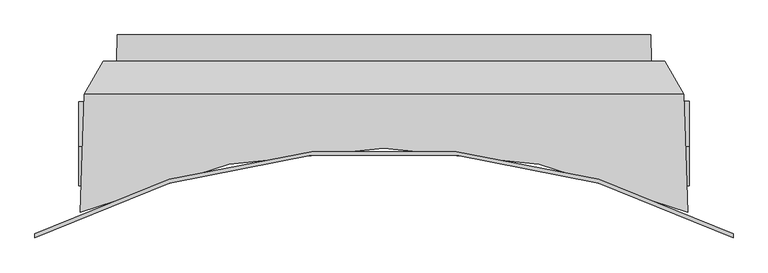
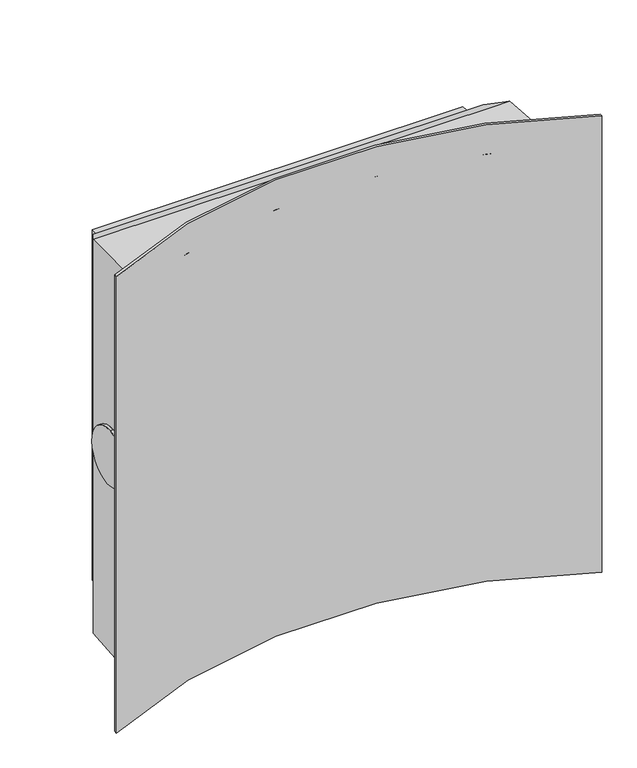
"""IFC4 building model written with IfcOpenShell, lengths in millimetres: proxy geometry, SU.900x900ManwayRiserAdapter.2500."""

from ifc_helpers import new_model, si_unit, frame, origin, place, context, project, spatial, polyline, circle_curve, ellipse_curve, source, transform, mapped, element, save
from ifc_brep_helpers import plane_surface, cylinder_surface, revolved_surface, advanced_brep


def generic_models_d0b4e73c(model_context):
    return source(origin(), model_context, "Body", "AdvancedBrep", [
        advanced_brep(
        [(498.8644366, -174.4226099, -69.7774514), (506.0, -174.4226099, -69.7774514), (506.0, -185.5773901, 69.7774514), (499.2539702, -185.5773901, 69.7774514), (-506.0, -174.4226099, -69.7774514), (-498.8644366, -174.4226099, -69.7774514), (-499.2539702, -185.5773901, 69.7774514), (-506.0, -185.5773901, 69.7774514), (-496.206021, -98.2955463, -496.206021), (-503.0171232, -293.3399951, -503.0171232), (-503.0171232, -293.3399951, 503.0171232), (-496.206021, -98.2955463, 496.206021), (-496.6147495, -110.0, 0.0), (503.0171232, -293.3399951, -503.0171232), (496.206021, -98.2955463, -496.206021), (496.206021, -98.2955463, 496.206021), (503.0171232, -293.3399951, 503.0171232), (496.6147495, -110.0, 0.0), (578.2496957, -329.4533574, -575.0), (-578.2496957, -329.4533574, -575.0), (-578.2496957, -329.4533574, 575.0), (578.2496957, -329.4533574, 575.0), (-464.8584727, -44.0, -464.8584727), (464.8584727, -44.0, -464.8584727), (464.8584727, -44.0, 464.8584727), (-464.8584727, -44.0, 464.8584727), (443.0401711, -44.0, -443.0401711), (443.0401711, -44.0, 443.0401711), (-443.0401711, -44.0, 443.0401711), (-443.0401711, -44.0, -443.0401711), (441.5036573, 0.0, 441.5036573), (441.5036573, 0.0, -441.5036573), (-441.5036573, 0.0, -441.5036573), (-441.5036573, 0.0, 441.5036573), (578.2496957, -336.2254829, -575.0), (578.2496957, -336.2254829, 575.0), (-578.2496957, -336.2254829, 575.0), (-578.2496957, -336.2254829, -575.0)],
        [
            (0, 1),
            (1, 2, circle_curve(frame((506.0, -180.0, 0.0), z_axis=(-1.0, 0.0, 0.0), x_axis=(0.0, 0.07967700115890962, -0.99682073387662)), 70.0)),
            (2, 3),
            (3, 0, ellipse_curve(frame((499.0592034, -180.0, 0.0), z_axis=(0.9993908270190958, 0.03489949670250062, 0.0), x_axis=(0.03489949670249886, -0.9993908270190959, 0.0)), 70.0426681, 70.0)),
            (4, 5),
            (5, 6, ellipse_curve(frame((-499.0592034, -180.0, 0.0), z_axis=(-0.9993908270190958, 0.03489949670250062, 0.0), x_axis=(0.03489949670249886, 0.9993908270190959, 0.0)), 70.0426681, 70.0)),
            (6, 7),
            (7, 4, circle_curve(frame((-506.0, -180.0, 0.0), z_axis=(1.0, 0.0, 0.0), x_axis=(0.0, 0.07967700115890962, -0.99682073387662)), 70.0)),
            (8, 9),
            (9, 10),
            (10, 11),
            (11, 8),
            (5, 12, ellipse_curve(frame((-499.0592034, -180.0, 0.0), z_axis=(0.9993908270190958, -0.03489949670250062, 0.0), x_axis=(0.03489949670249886, 0.9993908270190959, 0.0)), 70.0426681, 70.0)),
            (12, 6, ellipse_curve(frame((-499.0592034, -180.0, 0.0), z_axis=(0.9993908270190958, -0.03489949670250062, 0.0), x_axis=(0.03489949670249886, 0.9993908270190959, 0.0)), 70.0426681, 70.0)),
            (4, 7, circle_curve(frame((-506.0, -180.0, 0.0), z_axis=(1.0, 0.0, 0.0), x_axis=(0.0, 0.07967700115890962, -0.99682073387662)), 70.0)),
            (13, 14),
            (14, 15),
            (15, 16),
            (16, 13),
            (17, 0, ellipse_curve(frame((499.0592034, -180.0, 0.0), z_axis=(-0.9993908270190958, -0.03489949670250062, 0.0), x_axis=(0.03489949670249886, -0.9993908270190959, 0.0)), 70.0426681, 70.0)),
            (3, 17, ellipse_curve(frame((499.0592034, -180.0, 0.0), z_axis=(-0.9993908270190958, -0.03489949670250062, 0.0), x_axis=(0.03489949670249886, -0.9993908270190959, 0.0)), 70.0426681, 70.0)),
            (2, 1, circle_curve(frame((506.0, -180.0, 0.0), z_axis=(-1.0, 0.0, 0.0), x_axis=(0.0, 0.07967700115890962, -0.99682073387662)), 70.0)),
            (13, 9, ellipse_curve(frame((0.0, -1437.6624032, -542.9777423), z_axis=(0.0, -0.03489949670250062, 0.9993908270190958), x_axis=(0.0, 0.9993908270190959, 0.03489949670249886)), 1250.7619304, 1250.0)),
            (8, 14),
            (15, 11),
            (10, 16, ellipse_curve(frame((0.0, -1437.6624032, 542.9777423), z_axis=(0.0, -0.03489949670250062, -0.9993908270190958), x_axis=(0.0, -0.9993908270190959, 0.03489949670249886)), 1250.7619304, 1250.0)),
            (18, 19, circle_curve(frame((0.0, -1437.6624032, -575.0), z_axis=(0.0, 0.0, 1.0), x_axis=(0.4625997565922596, 0.8865672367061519, 0.0)), 1250.0)),
            (19, 20),
            (20, 21, circle_curve(frame((0.0, -1437.6624032, 575.0), z_axis=(0.0, 0.0, -1.0), x_axis=(0.4625997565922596, 0.8865672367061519, 0.0)), 1250.0)),
            (21, 18),
            (8, 22),
            (22, 23),
            (23, 14),
            (23, 24),
            (24, 15),
            (22, 25),
            (25, 24),
            (26, 27),
            (27, 28),
            (28, 29),
            (29, 26),
            (25, 11),
            (30, 31),
            (31, 32),
            (32, 33),
            (33, 30),
            (30, 27),
            (26, 31),
            (29, 32),
            (33, 28),
            (34, 35),
            (35, 36, circle_curve(frame((0.0, -1437.6624032, 575.0), z_axis=(0.0, 0.0, 1.0), x_axis=(-0.4648309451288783, -0.8853994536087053, 0.0)), 1244.0)),
            (36, 37),
            (37, 34, circle_curve(frame((0.0, -1437.6624032, -575.0), z_axis=(0.0, 0.0, -1.0), x_axis=(-0.4648309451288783, -0.8853994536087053, 0.0)), 1244.0)),
            (34, 18),
            (21, 35),
            (19, 37),
            (36, 20),
        ],
        [
            cylinder_surface(frame((0.0, -180.0, 0.0), z_axis=(1.0, 0.0, 0.0), x_axis=(0.0, 0.07967700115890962, -0.99682073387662)), 70.0),
            plane_surface(frame((-496.206021, -98.2955463, -391.5), z_axis=(-0.9993908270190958, 0.03489949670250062, 0.0), x_axis=(-0.03489949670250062, -0.9993908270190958, 0.0))),
            plane_surface(frame((496.206021, -98.2955463, 391.5), z_axis=(0.9993908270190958, 0.03489949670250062, 0.0), x_axis=(0.03489949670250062, -0.9993908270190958, 0.0))),
            plane_surface(frame((506.0, -205.0, 0.0), z_axis=(1.0, 0.0, 0.0), x_axis=(0.0, 0.0, -1.0))),
            plane_surface(frame((-506.0, -205.0, 0.0), z_axis=(-1.0, 0.0, 0.0), x_axis=(0.0, 0.0, -1.0))),
            plane_surface(frame((391.5, -98.2955463, -496.206021), z_axis=(0.0, 0.03489949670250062, -0.9993908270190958), x_axis=(0.0, -0.9993908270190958, -0.03489949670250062))),
            plane_surface(frame((-391.5, -98.2955463, 496.206021), z_axis=(0.0, 0.03489949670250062, 0.9993908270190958), x_axis=(0.0, -0.9993908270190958, 0.03489949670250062))),
            cylinder_surface(frame((0.0, -1437.6624032, 0.0), z_axis=(0.0, 0.0, 0.9999999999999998), x_axis=(0.4625997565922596, 0.8865672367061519, 0.0)), 1250.0),
            plane_surface(frame((391.5, -44.0, -464.8584727), z_axis=(0.0, 0.49999999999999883, -0.8660254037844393), x_axis=(0.0, -0.8660254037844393, -0.49999999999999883))),
            plane_surface(frame((464.8584727, -44.0, 391.5), z_axis=(0.8660254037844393, 0.49999999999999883, 0.0), x_axis=(0.49999999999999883, -0.8660254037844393, 0.0))),
            plane_surface(frame((391.5, -44.0, -443.0401711), z_axis=(0.0, 1.0, 0.0), x_axis=(0.0, 0.0, -1.0))),
            plane_surface(frame((-391.5, -44.0, 464.8584727), z_axis=(0.0, 0.49999999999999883, 0.8660254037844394), x_axis=(0.0, -0.8660254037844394, 0.49999999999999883))),
            plane_surface(frame((-464.8584727, -44.0, -391.5), z_axis=(-0.8660254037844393, 0.49999999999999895, 0.0), x_axis=(-0.49999999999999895, -0.8660254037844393, 0.0))),
            plane_surface(frame((391.5, 0.0, -435.5), z_axis=(0.0, 1.0, 0.0), x_axis=(0.0, 0.0, -1.0))),
            plane_surface(frame((441.5036573, 0.0, 391.5), z_axis=(0.999390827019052, 0.034899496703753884, 0.0), x_axis=(0.034899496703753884, -0.999390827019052, 0.0))),
            plane_surface(frame((391.5, 0.0, -441.5036573), z_axis=(0.0, 0.034899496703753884, -0.999390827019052), x_axis=(0.0, -0.999390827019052, -0.034899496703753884))),
            plane_surface(frame((-391.5, 0.0, 441.5036573), z_axis=(0.0, 0.034899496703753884, 0.999390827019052), x_axis=(0.0, -0.999390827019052, 0.034899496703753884))),
            plane_surface(frame((-441.5036573, 0.0, -391.5), z_axis=(-0.999390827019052, 0.034899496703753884, 0.0), x_axis=(-0.034899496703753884, -0.999390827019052, 0.0))),
            revolved_surface(polyline([(-578.2496957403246, -2539.0993234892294, 575.0000000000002), (-578.2496957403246, -2539.0993234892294, -575.0000000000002)]), (0.0, -1437.6624032, 0.0), (0.0, 0.0, 1.0000000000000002)),
            plane_surface(frame((578.2496957, -336.2254829, 0.0), z_axis=(1.0, 0.0, 0.0), x_axis=(0.0, 1.0, 0.0))),
            plane_surface(frame((-578.2496957, -329.4533574, 0.0), z_axis=(-1.0, 0.0, 0.0), x_axis=(0.0, -1.0, 0.0))),
            plane_surface(frame((0.0, -261.9439431, 575.0), z_axis=(0.0, 0.0, 1.0), x_axis=(1.0, 0.0, 0.0))),
            plane_surface(frame((0.0, -261.9439431, -575.0), z_axis=(0.0, 0.0, -1.0), x_axis=(1.0, 0.0, 0.0))),
        ],
        [
            (0, [[1, 2, 3, 4]]),
            (0, [[5, 6, 7, 8]]),
            (1, [[9, 10, 11, 12], [13, 14, -6]]),
            (0, [[-5, 15, -7, -14, -13]]),
            (2, [[16, 17, 18, 19], [20, -4, 21]]),
            (0, [[-1, -20, -21, -3, 22]]),
            (3, [[-2, -22]]),
            (4, [[-15, -8]]),
            (5, [[-16, 23, -9, 24]]),
            (6, [[-18, 25, -11, 26]]),
            (7, [[27, 28, 29, 30], [-23, -19, -26, -10]]),
            (8, [[-24, 31, 32, 33]]),
            (9, [[-17, -33, 34, 35]]),
            (10, [[-32, 36, 37, -34], [38, 39, 40, 41]]),
            (11, [[-25, -35, -37, 42]]),
            (12, [[-12, -42, -36, -31]]),
            (13, [[43, 44, 45, 46]]),
            (14, [[-43, 47, -38, 48]]),
            (15, [[-48, -41, 49, -44]]),
            (16, [[-46, 50, -39, -47]]),
            (17, [[-45, -49, -40, -50]]),
            (18, [[51, 52, 53, 54]]),
            (19, [[-51, 55, -30, 56]]),
            (20, [[-28, 57, -53, 58]]),
            (21, [[-56, -29, -58, -52]]),
            (22, [[-57, -27, -55, -54]]),
        ],
    ),
    ])


if __name__ == "__main__":
    model = new_model("IFC4")
    model_context = context("Model", 3, world=origin())
    ifc_project = project(units=[si_unit("LENGTHUNIT", "METRE", prefix="MILLI")], contexts=[model_context])
    site = spatial("IfcSite", under=ifc_project)
    building = spatial("IfcBuilding", under=site)
    placement = place(None, origin())
    generic_models_shape = generic_models_d0b4e73c(model_context)
    element("IfcBuildingElementProxy", 1, Name="SU.900x900ManwayRiserAdapter.2500", ObjectType="SU.900x900ManwayRiserAdapter.2500", at=placement, inside=building, context=model_context, shape_type="MappedRepresentation", body=[
        mapped(generic_models_shape, transform((0.0, 0.0, 0.0), x_axis=(1.0, 0.0, 0.0), y_axis=(0.0, 1.0, 0.0), z_axis=(0.0, 0.0, 1.0))),
    ])
    save(model, "model.ifc")
